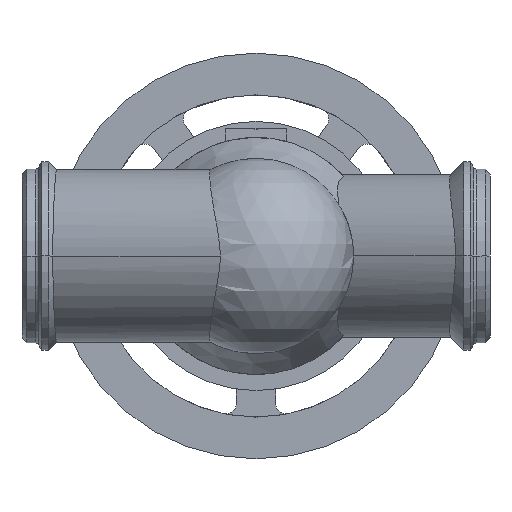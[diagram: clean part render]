
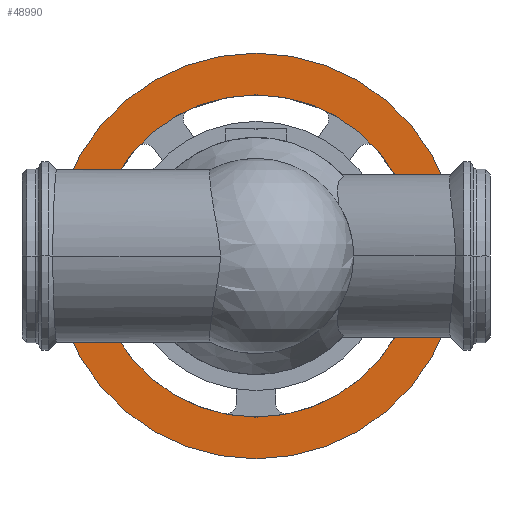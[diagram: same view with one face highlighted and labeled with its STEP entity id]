
A CAD part, front view. The second image highlights one B-rep face of the part: STEP entity #48990.
In plain terms, the highlighted planar face has unit normal (0, -1, 0).
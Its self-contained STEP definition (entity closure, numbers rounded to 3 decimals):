
#47500=CARTESIAN_POINT('',(93.5,696.92,0.));
#47510=VERTEX_POINT('',#47500);
#48600=CARTESIAN_POINT('',(506.5,696.92,0.));
#48610=VERTEX_POINT('',#48600);
#48640=CARTESIAN_POINT('',(300.,696.92,0.));
#48650=DIRECTION('',(0.,1.,0.));
#48660=DIRECTION('',(1.,0.,0.));
#48670=AXIS2_PLACEMENT_3D('',#48640,#48650,#48660);
#48680=CIRCLE('',#48670,206.5);
#48690=EDGE_CURVE('',#48610,#47510,#48680,.T.);
#48740=CARTESIAN_POINT('',(533.25,696.92,0.));
#48750=DIRECTION('',(0.,-1.,0.));
#48760=DIRECTION('',(-1.,0.,0.));
#48770=AXIS2_PLACEMENT_3D('',#48740,#48750,#48760);
#48780=PLANE('',#48770);
#48790=CARTESIAN_POINT('',(300.,696.92,0.));
#48800=DIRECTION('',(0.,1.,0.));
#48810=DIRECTION('',(1.,0.,0.));
#48820=AXIS2_PLACEMENT_3D('',#48790,#48800,#48810);
#48830=CIRCLE('',#48820,260.);
#48840=CARTESIAN_POINT('',(40.,696.92,0.));
#48850=VERTEX_POINT('',#48840);
#48860=CARTESIAN_POINT('',(560.,696.92,0.));
#48870=VERTEX_POINT('',#48860);
#48880=EDGE_CURVE('',#48850,#48870,#48830,.T.);
#48890=ORIENTED_EDGE('',*,*,#48880,.F.);
#48900=EDGE_CURVE('',#48870,#48850,#48830,.T.);
#48910=ORIENTED_EDGE('',*,*,#48900,.F.);
#48920=EDGE_LOOP('',(#48910,#48890));
#48930=FACE_OUTER_BOUND('',#48920,.T.);
#48940=EDGE_CURVE('',#47510,#48610,#48680,.T.);
#48950=ORIENTED_EDGE('',*,*,#48940,.T.);
#48960=ORIENTED_EDGE('',*,*,#48690,.T.);
#48970=EDGE_LOOP('',(#48960,#48950));
#48980=FACE_BOUND('',#48970,.T.);
#48990=ADVANCED_FACE('',(#48930,#48980),#48780,.T.);
